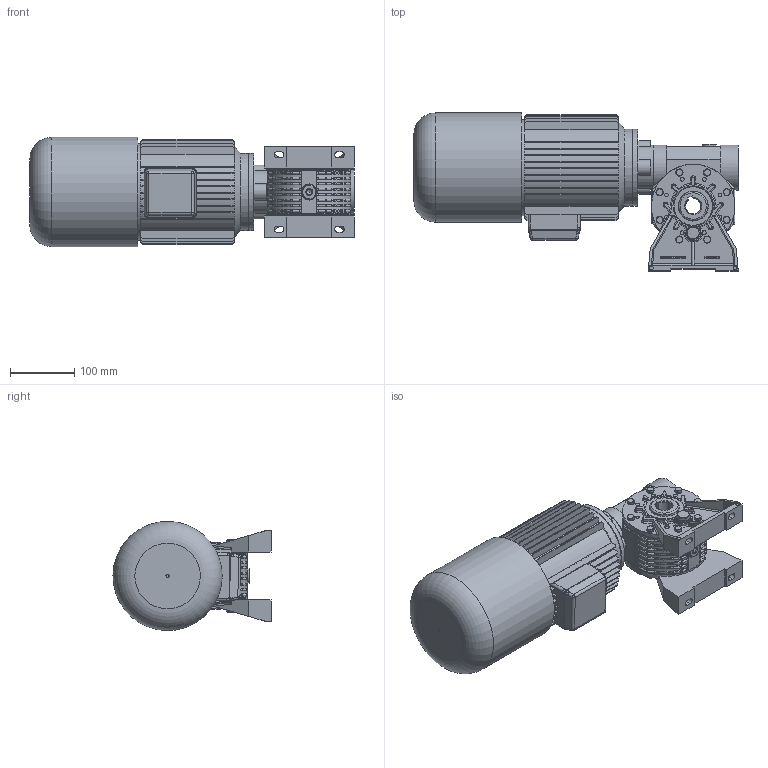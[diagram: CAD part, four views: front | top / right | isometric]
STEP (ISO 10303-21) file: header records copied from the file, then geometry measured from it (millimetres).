
FILE_DESCRIPTION((''),'2;1');
FILE_NAME('Y:\Archivi Inventor\Prog_01\GRAND_20\figuirini\mrv20_sito\80_autofrenante\MRV---20---P2-----80----B14F3D.stp','2013-02-08T16:58:34',('tech3'),(''),'Autodesk Inventor 2013','Autodesk Inventor 2013','');
FILE_SCHEMA(('AUTOMOTIVE_DESIGN { 1 0 10303 214 1 1 1 1 }'));
Length unit declared in the file: millimetre
Products named in the file (17): fig_mrv20_80_b14; mrv20; 0102001; 01020010; Coperchietto_47x7; Guarnizione 3_8 GAS; Tappo3_8 GAS; Tappo 3_8 GAS_esagn_incsst; mozzo_corona_fig; PARAOLIO 45x60x8; ISO 4017 M6 x 16; 0102029; DIN EN 24017 M6 x 12; 0102028; DIN EN ISO 4762 M6 x 20; 0102006; motori B14 brake 80
Assembly tree (43 placements, depth 3):
  fig_mrv20_80_b14
    mrv20
      0102001
      01020010  x2
      Coperchietto_47x7
      Guarnizione 3_8 GAS  x4
      Tappo3_8 GAS  x2
      Tappo 3_8 GAS_esagn_incsst  x2
      mozzo_corona_fig
      PARAOLIO 45x60x8  x2
      ISO 4017 M6 x 16  x16
      0102029  x2
      DIN EN 24017 M6 x 12  x2
      0102028
      DIN EN ISO 4762 M6 x 20  x4
    0102006
    motori B14 brake 80
Bounding box: 505 x 245.99 x 169.97 mm (x, y, z)
Volume: 5180643.9 mm3; surface area: 807999.8 mm2
Topology: 43 solids, 50 shells, 2614 faces, 6382 edges, 3930 vertices
Faces by surface type: plane 1355, cylinder 570, bspline 330, cone 185, torus 146, sphere 28
Full cylindrical faces by diameter (mm): 2 x2, 4.917 x24, 5 x1, 6 x38, 6.5 x36, 6.75 x4, 7 x4, 8 x2, 8.88 x18, 10 x4, 11 x16, 13.046 x2, 14.95 x4, 16.3 x4, 16.5 x2, 19 x1, 22 x8, 25 x2, 40 x1, 41.36 x1, 44.4 x2, 45 x4, 47 x4, 49.5 x1, 50.605 x2, 55.5 x2, 60 x4, 69.5 x1, 70 x2, 80 x2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
Entity records: 59090 total; most frequent: CARTESIAN_POINT 19021, ORIENTED_EDGE 7968, DIRECTION 7864, EDGE_CURVE 3984, AXIS2_PLACEMENT_3D 2926, VERTEX_POINT 2554, EDGE_LOOP 2062, VECTOR 2012
